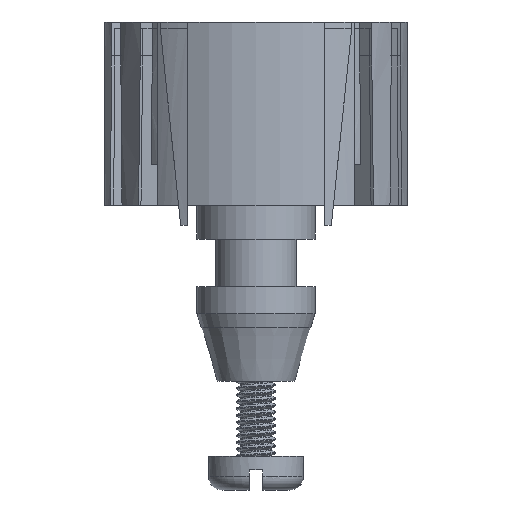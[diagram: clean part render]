
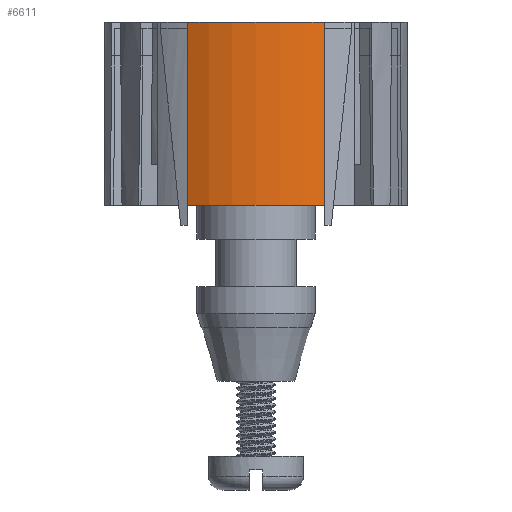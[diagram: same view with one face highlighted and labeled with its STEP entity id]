
A CAD part, left-side view. The second image highlights one B-rep face of the part: STEP entity #6611.
In plain terms, the highlighted cylindrical face has radius 11.2 mm (diameter 22.4 mm), a partial arc.
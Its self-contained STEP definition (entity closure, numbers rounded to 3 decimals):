
#550=LINE('',#11857,#1013);
#552=LINE('',#11861,#1015);
#1013=VECTOR('',#9255,10.);
#1015=VECTOR('',#9261,10.);
#1178=CYLINDRICAL_SURFACE('',#7393,11.2);
#1664=FACE_OUTER_BOUND('',#2040,.T.);
#2040=EDGE_LOOP('',(#5688,#5689,#5690,#5691));
#2287=CIRCLE('',#7088,11.2);
#2389=CIRCLE('',#7361,11.2);
#2730=VERTEX_POINT('',#10875);
#2731=VERTEX_POINT('',#10877);
#2960=VERTEX_POINT('',#11788);
#2961=VERTEX_POINT('',#11790);
#3538=EDGE_CURVE('',#2730,#2731,#2287,.F.);
#3886=EDGE_CURVE('',#2960,#2961,#2389,.T.);
#3919=EDGE_CURVE('',#2960,#2731,#550,.F.);
#3921=EDGE_CURVE('',#2730,#2961,#552,.F.);
#5688=ORIENTED_EDGE('',*,*,#3919,.T.);
#5689=ORIENTED_EDGE('',*,*,#3538,.F.);
#5690=ORIENTED_EDGE('',*,*,#3921,.T.);
#5691=ORIENTED_EDGE('',*,*,#3886,.F.);
#6611=ADVANCED_FACE('',(#1664),#1178,.T.);
#7088=AXIS2_PLACEMENT_3D('',#10878,#8467,#8468);
#7361=AXIS2_PLACEMENT_3D('',#11791,#9175,#9176);
#7393=AXIS2_PLACEMENT_3D('',#11860,#9259,#9260);
#8467=DIRECTION('center_axis',(0.,0.,-1.));
#8468=DIRECTION('ref_axis',(1.,0.,0.));
#9175=DIRECTION('center_axis',(0.,0.,-1.));
#9176=DIRECTION('ref_axis',(1.,0.,0.));
#9255=DIRECTION('',(0.,0.,-1.));
#9259=DIRECTION('center_axis',(0.,0.,1.));
#9260=DIRECTION('ref_axis',(-1.,0.,0.));
#9261=DIRECTION('',(0.,0.,1.));
#10875=CARTESIAN_POINT('',(-9.997,5.05,10.));
#10877=CARTESIAN_POINT('',(-9.997,-5.05,10.));
#10878=CARTESIAN_POINT('Origin',(0.,0.,10.));
#11788=CARTESIAN_POINT('',(-9.997,-5.05,-3.5));
#11790=CARTESIAN_POINT('',(-9.997,5.05,-3.5));
#11791=CARTESIAN_POINT('Origin',(0.,0.,-3.5));
#11857=CARTESIAN_POINT('',(-9.997,-5.05,0.));
#11860=CARTESIAN_POINT('Origin',(0.,0.,0.));
#11861=CARTESIAN_POINT('',(-9.997,5.05,0.));
